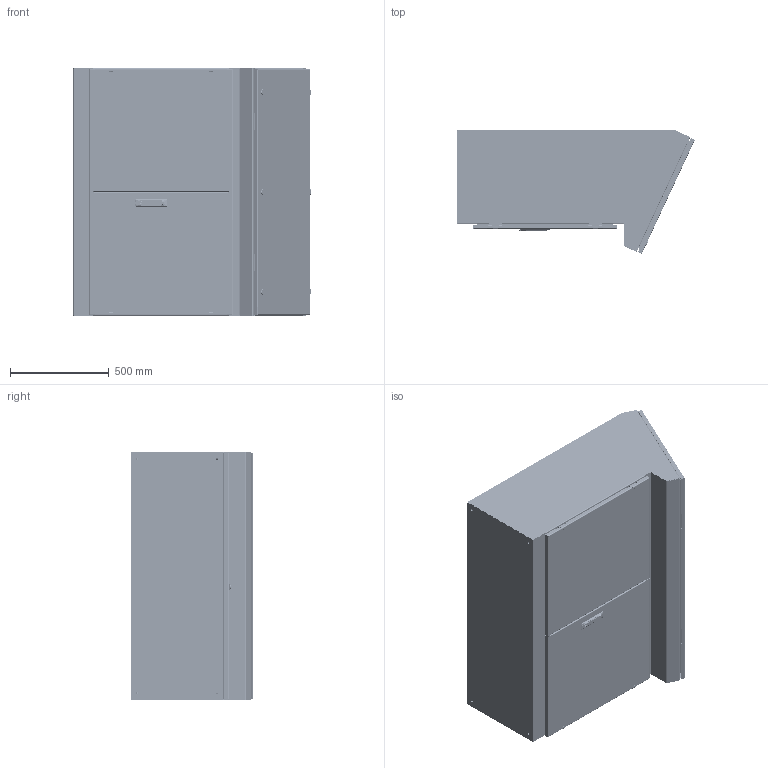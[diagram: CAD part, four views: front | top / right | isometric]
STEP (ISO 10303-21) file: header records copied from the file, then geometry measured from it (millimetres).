
FILE_DESCRIPTION((''),'2;1');
FILE_NAME('MODEL-179_ASM','2019-10-21T10:59:29',('joelb'),('SAGINAW CONTROL & ENGINEERING'),'CREO PARAMETRIC BY PTC INC, 2017260','CREO PARAMETRIC BY PTC INC, 2017260','');
FILE_SCHEMA(('AUTOMOTIVE_DESIGN { 1 0 10303 214 1 1 1 1 }'));
Length unit declared in the file: inch
Products named in the file (90): MODEL-179-FRNT; MODEL-179-R-SD; MODEL-179-L-SD; MODEL-179-BTM; MODEL-179-BCK; MODEL-179-SLP-DR; MODEL-179-GSKT-SLP; 100837; 100794_SHAFT; 100794_INSERT; 100794_CAM; 100794_NUT; 100794_SCREW; 100794_ASM; 126392; 126397; 126392_ASM; 126395; 102483; 101226; 101389; 102140; MODEL-179-SLP-DOOR-ASSY_ASM; MODEL-179-FR-MSTR; 100882; 111267; MODEL-179-ROD-FR-UPR; 128146; 128145; 128144; 102482; MODEL-179-ROD-FR-UPR_ASM; 128143; 112504; MODEL-179-ROD-FR-LWR; MODEL-179-ROD-FR-LWR_ASM; 100796_BASE; 100796_WASHER; 100796_SHAFT; 100796_PIN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
Assembly tree (202 placements, depth 4):
  MODEL-179_ASM
    MODEL-179-FRNT
    MODEL-179-R-SD
    MODEL-179-L-SD
    MODEL-179-BTM
    MODEL-179-BCK
    MODEL-179-SLP-DOOR-ASSY_ASM
      MODEL-179-SLP-DR
      MODEL-179-GSKT-SLP
      100837  x5
      100794_ASM  x3
        100794_SHAFT
        100794_INSERT
        100794_CAM
        100794_NUT
        100794_SCREW
      126392_ASM  x3
        126392
        126397
      126395  x3
      102483  x9
      101226  x3
      101389  x3
      102140  x3
    MODEL-179-FR-M-DOOR-ASSY_ASM
      MODEL-179-FR-MSTR
      100837  x5
      100882  x4
      111267
      MODEL-179-ROD-FR-UPR_ASM
        MODEL-179-ROD-FR-UPR
        128146
        128145
        128144
        102482  x2
      128143  x2
      112504  x2
      MODEL-179-ROD-FR-LWR_ASM
        MODEL-179-ROD-FR-LWR
        128146
        128145
        128144
        102482  x2
      100796_ASM
        100796_BASE
        100796_WASHER
        100796_SHAFT
        100796_PIN
        100796_HANDLE
        100796_CAP
        100796_PLATE
        100796_SCREW  x3
        100796_CAP2
        100796_LOCK
      100820
      128142_ASM
        128142
        100030  x2
      MODEL-179-GSKT-FR-MSTR
      126392_ASM  x2
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Bounding box: 1199.76 x 621.28 x 1250.95 mm (x, y, z)
Volume: 16187547.6 mm3; surface area: 14752503 mm2
Topology: 205 solids, 205 shells, 12053 faces, 30293 edges, 18804 vertices
Faces by surface type: plane 5279, cylinder 3825, bspline 1323, torus 914, cone 441, sphere 271
Entity records: 249616 total; most frequent: CARTESIAN_POINT 70517, DIRECTION 24600, ORIENTED_EDGE 24428, EDGE_CURVE 12214, PRESENTATION_STYLE_ASSIGNMENT 12097, STYLED_ITEM 11563, CURVE_STYLE 11087, AXIS2_PLACEMENT_3D 8936
